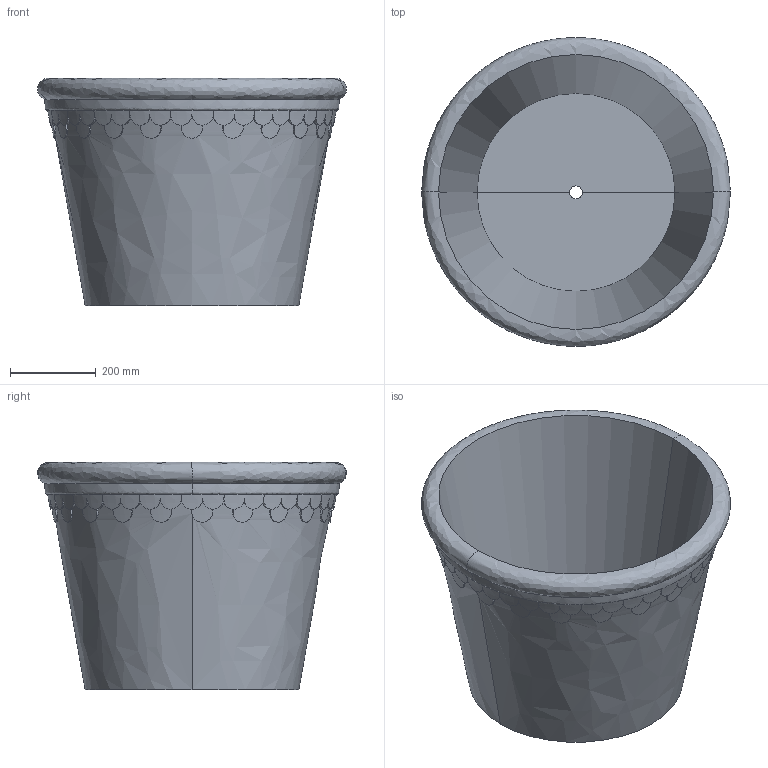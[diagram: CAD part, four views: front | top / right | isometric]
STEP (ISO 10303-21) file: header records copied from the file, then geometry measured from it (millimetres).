
FILE_DESCRIPTION(/* description */ (''),/* implementation_level */ '2;1');
FILE_NAME(/* name */ 'KBH70',/* time_stamp */ '2026-04-30T08:42:54+02:00',/* author */ (''),/* organization */ (''),/* preprocessor_version */ 'ST-DEVELOPER v19.2',/* originating_system */ 'Rhino 8.30',/* authorisation */ '');
FILE_SCHEMA (('CONFIG_CONTROL_DESIGN'));
Length unit declared in the file: millimetre
Products named in the file (1): Document
Bounding box: 720 x 719.24 x 530 mm (x, y, z)
Volume: 27937683 mm3; surface area: 2373210.4 mm2
Topology: 1 solids, 1 shells, 140 faces, 408 edges, 268 vertices
Faces by surface type: bspline 134, plane 4, cylinder 2
Entity records: 60904 total; most frequent: CARTESIAN_POINT 58249, ORIENTED_EDGE 816, EDGE_CURVE 408, B_SPLINE_CURVE_WITH_KNOTS 363, VERTEX_POINT 268, ADVANCED_FACE 140, FACE_OUTER_BOUND 140, EDGE_LOOP 140
